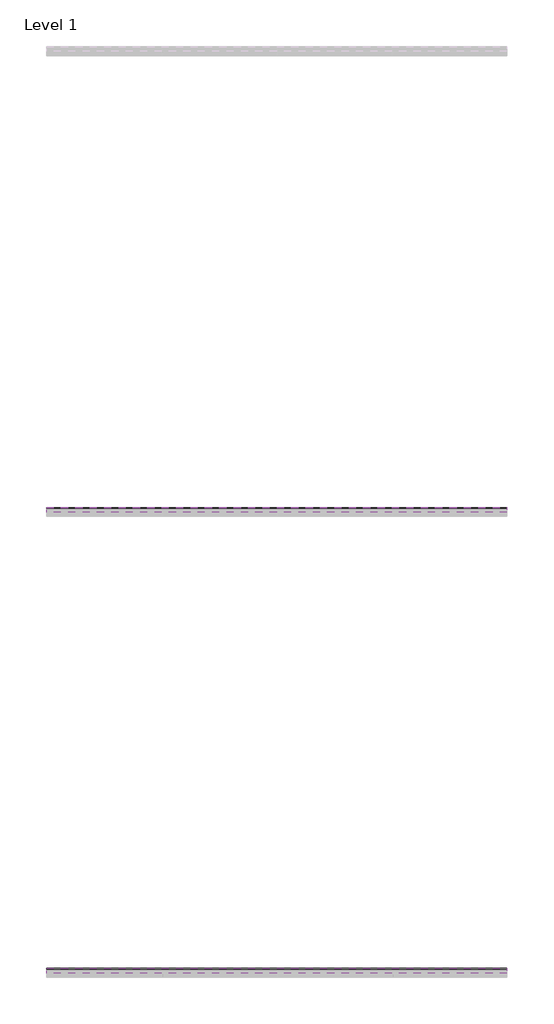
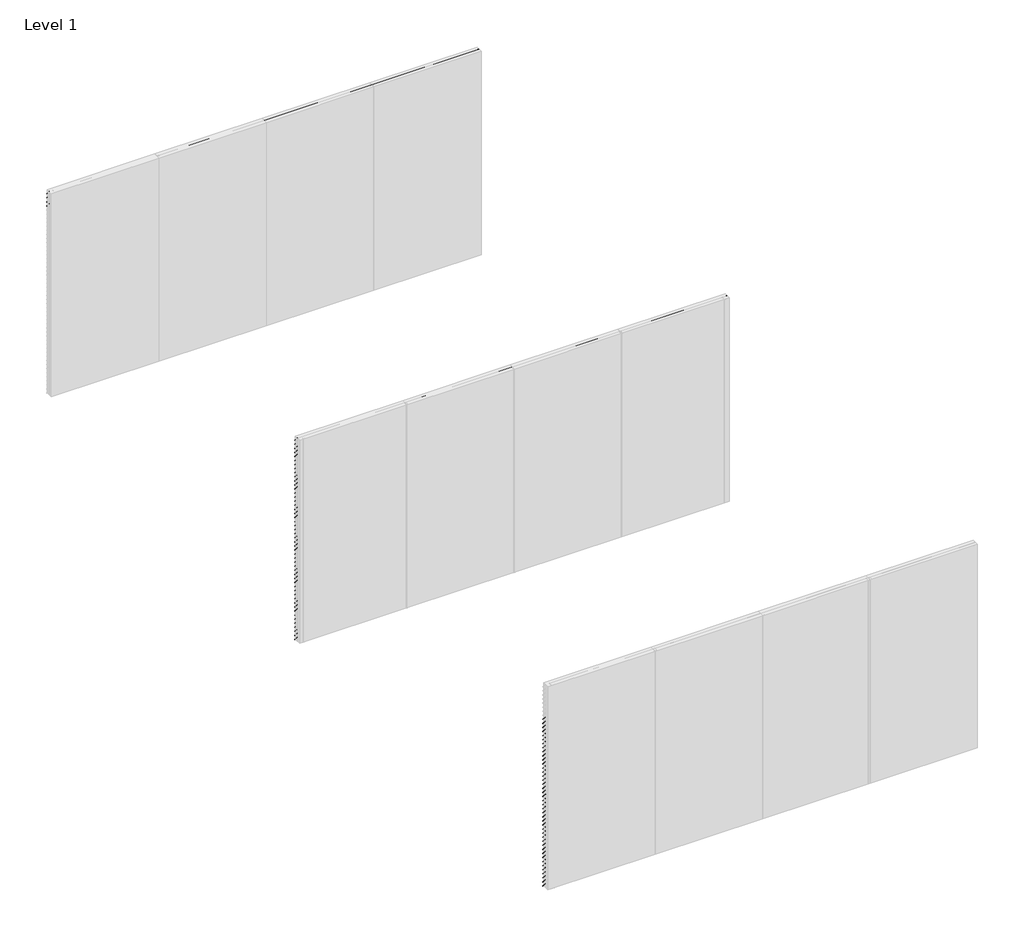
# One storey, part 2 of 3: 96 proxies.
"""IFC4 building model written with IfcOpenShell, lengths in millimetres."""

from ifc_helpers import new_model, si_unit, frame, origin, place, context, project, spatial, polyline, outline, extrude, element, save

model = new_model("IFC4")

# Units and contexts
model_context = context("Model", 3, world=origin())
ifc_project = project(units=[si_unit("LENGTHUNIT", "METRE", prefix="MILLI")], contexts=[model_context])

# Site, building, storey
site = spatial("IfcSite", under=ifc_project)
building = spatial("IfcBuilding", under=site)
storey = spatial("IfcBuildingStorey", under=building, Name="Level 1", Elevation=0.0)

# Proxies
placement = place(None, origin())
element("IfcBuildingElementProxy", 1, Name="Wall Sweeps", at=placement, inside=storey, context=model_context, shape_type="SweptSolid", body=[
    extrude(outline(polyline([(-7995.0, 3000.0), (-7995.0, 2998.0), (-7933.0, 2929.0), (-7933.0, 2926.0), (-7997.0, 2997.2258065), (-7997.0, 3000.0), (-7995.0, 3000.0)])), frame((0.0, 0.0, 0.0), z_axis=(1.0, 0.0, 0.0), x_axis=(0.0, 1.0, 0.0)), (0.0, 0.0, 1.0), 6000.0),
])
element("IfcBuildingElementProxy", 2, Name="Wall Sweeps", at=placement, inside=storey, context=model_context, shape_type="SweptSolid", body=[
    extrude(outline(polyline([(-7995.0, 2940.0), (-7995.0, 2938.0), (-7933.0, 2869.0), (-7933.0, 2866.0), (-7997.0, 2937.2258065), (-7997.0, 2940.0), (-7995.0, 2940.0)])), frame((0.0, 0.0, 0.0), z_axis=(1.0, 0.0, 0.0), x_axis=(0.0, 1.0, 0.0)), (0.0, 0.0, 1.0), 6000.0),
])
element("IfcBuildingElementProxy", 3, Name="Wall Sweeps", at=placement, inside=storey, context=model_context, shape_type="SweptSolid", body=[
    extrude(outline(polyline([(-7995.0, 2880.0), (-7995.0, 2878.0), (-7933.0, 2809.0), (-7933.0, 2806.0), (-7997.0, 2877.2258065), (-7997.0, 2880.0), (-7995.0, 2880.0)])), frame((0.0, 0.0, 0.0), z_axis=(1.0, 0.0, 0.0), x_axis=(0.0, 1.0, 0.0)), (0.0, 0.0, 1.0), 6000.0),
])
element("IfcBuildingElementProxy", 4, Name="Wall Sweeps", at=placement, inside=storey, context=model_context, shape_type="SweptSolid", body=[
    extrude(outline(polyline([(-7995.0, 2820.0), (-7995.0, 2818.0), (-7933.0, 2749.0), (-7933.0, 2746.0), (-7997.0, 2817.2258065), (-7997.0, 2820.0), (-7995.0, 2820.0)])), frame((0.0, 0.0, 0.0), z_axis=(1.0, 0.0, 0.0), x_axis=(0.0, 1.0, 0.0)), (0.0, 0.0, 1.0), 6000.0),
])
element("IfcBuildingElementProxy", 5, Name="Wall Sweeps", at=placement, inside=storey, context=model_context, shape_type="SweptSolid", body=[
    extrude(outline(polyline([(-13995.0, 3000.0), (-13995.0, 2998.0), (-13933.0, 2929.0), (-13933.0, 2926.0), (-13997.0, 2997.2258065), (-13997.0, 3000.0), (-13995.0, 3000.0)])), frame((0.0, 0.0, 0.0), z_axis=(1.0, 0.0, 0.0), x_axis=(0.0, 1.0, 0.0)), (0.0, 0.0, 1.0), 6000.0),
])
element("IfcBuildingElementProxy", 6, Name="Wall Sweeps", at=placement, inside=storey, context=model_context, shape_type="SweptSolid", body=[
    extrude(outline(polyline([(-13995.0, 2940.0), (-13995.0, 2938.0), (-13933.0, 2869.0), (-13933.0, 2866.0), (-13997.0, 2937.2258065), (-13997.0, 2940.0), (-13995.0, 2940.0)])), frame((0.0, 0.0, 0.0), z_axis=(1.0, 0.0, 0.0), x_axis=(0.0, 1.0, 0.0)), (0.0, 0.0, 1.0), 6000.0),
])
element("IfcBuildingElementProxy", 7, Name="Wall Sweeps", at=placement, inside=storey, context=model_context, shape_type="SweptSolid", body=[
    extrude(outline(polyline([(-13995.0, 2880.0), (-13995.0, 2878.0), (-13933.0, 2809.0), (-13933.0, 2806.0), (-13997.0, 2877.2258065), (-13997.0, 2880.0), (-13995.0, 2880.0)])), frame((0.0, 0.0, 0.0), z_axis=(1.0, 0.0, 0.0), x_axis=(0.0, 1.0, 0.0)), (0.0, 0.0, 1.0), 6000.0),
])
element("IfcBuildingElementProxy", 8, Name="Wall Sweeps", at=placement, inside=storey, context=model_context, shape_type="SweptSolid", body=[
    extrude(outline(polyline([(-13995.0, 2820.0), (-13995.0, 2818.0), (-13933.0, 2749.0), (-13933.0, 2746.0), (-13997.0, 2817.2258065), (-13997.0, 2820.0), (-13995.0, 2820.0)])), frame((0.0, 0.0, 0.0), z_axis=(1.0, 0.0, 0.0), x_axis=(0.0, 1.0, 0.0)), (0.0, 0.0, 1.0), 6000.0),
])
element("IfcBuildingElementProxy", 9, Name="Wall Sweeps", at=placement, inside=storey, context=model_context, shape_type="SweptSolid", body=[
    extrude(outline(polyline([(-13995.0, 2760.0), (-13995.0, 2758.0), (-13933.0, 2689.0), (-13933.0, 2686.0), (-13997.0, 2757.2258065), (-13997.0, 2760.0), (-13995.0, 2760.0)])), frame((0.0, 0.0, 0.0), z_axis=(1.0, 0.0, 0.0), x_axis=(0.0, 1.0, 0.0)), (0.0, 0.0, 1.0), 6000.0),
])
element("IfcBuildingElementProxy", 10, Name="Wall Sweeps", at=placement, inside=storey, context=model_context, shape_type="SweptSolid", body=[
    extrude(outline(polyline([(-13995.0, 2700.0), (-13995.0, 2698.0), (-13933.0, 2629.0), (-13933.0, 2626.0), (-13997.0, 2697.2258065), (-13997.0, 2700.0), (-13995.0, 2700.0)])), frame((0.0, 0.0, 0.0), z_axis=(1.0, 0.0, 0.0), x_axis=(0.0, 1.0, 0.0)), (0.0, 0.0, 1.0), 6000.0),
])
element("IfcBuildingElementProxy", 11, Name="Wall Sweeps", at=placement, inside=storey, context=model_context, shape_type="SweptSolid", body=[
    extrude(outline(polyline([(-13995.0, 2640.0), (-13995.0, 2638.0), (-13933.0, 2569.0), (-13933.0, 2566.0), (-13997.0, 2637.2258065), (-13997.0, 2640.0), (-13995.0, 2640.0)])), frame((0.0, 0.0, 0.0), z_axis=(1.0, 0.0, 0.0), x_axis=(0.0, 1.0, 0.0)), (0.0, 0.0, 1.0), 6000.0),
])
element("IfcBuildingElementProxy", 12, Name="Wall Sweeps", at=placement, inside=storey, context=model_context, shape_type="SweptSolid", body=[
    extrude(outline(polyline([(-13995.0, 2580.0), (-13995.0, 2578.0), (-13933.0, 2509.0), (-13933.0, 2506.0), (-13997.0, 2577.2258065), (-13997.0, 2580.0), (-13995.0, 2580.0)])), frame((0.0, 0.0, 0.0), z_axis=(1.0, 0.0, 0.0), x_axis=(0.0, 1.0, 0.0)), (0.0, 0.0, 1.0), 6000.0),
])
element("IfcBuildingElementProxy", 13, Name="Wall Sweeps", at=placement, inside=storey, context=model_context, shape_type="SweptSolid", body=[
    extrude(outline(polyline([(-13995.0, 2520.0), (-13995.0, 2518.0), (-13933.0, 2449.0), (-13933.0, 2446.0), (-13997.0, 2517.2258065), (-13997.0, 2520.0), (-13995.0, 2520.0)])), frame((0.0, 0.0, 0.0), z_axis=(1.0, 0.0, 0.0), x_axis=(0.0, 1.0, 0.0)), (0.0, 0.0, 1.0), 6000.0),
])
element("IfcBuildingElementProxy", 14, Name="Wall Sweeps", at=placement, inside=storey, context=model_context, shape_type="SweptSolid", body=[
    extrude(outline(polyline([(-13995.0, 2460.0), (-13995.0, 2458.0), (-13933.0, 2389.0), (-13933.0, 2386.0), (-13997.0, 2457.2258065), (-13997.0, 2460.0), (-13995.0, 2460.0)])), frame((0.0, 0.0, 0.0), z_axis=(1.0, 0.0, 0.0), x_axis=(0.0, 1.0, 0.0)), (0.0, 0.0, 1.0), 6000.0),
])
element("IfcBuildingElementProxy", 15, Name="Wall Sweeps", at=placement, inside=storey, context=model_context, shape_type="SweptSolid", body=[
    extrude(outline(polyline([(-13995.0, 2400.0), (-13995.0, 2398.0), (-13933.0, 2329.0), (-13933.0, 2326.0), (-13997.0, 2397.2258065), (-13997.0, 2400.0), (-13995.0, 2400.0)])), frame((0.0, 0.0, 0.0), z_axis=(1.0, 0.0, 0.0), x_axis=(0.0, 1.0, 0.0)), (0.0, 0.0, 1.0), 6000.0),
])
element("IfcBuildingElementProxy", 16, Name="Wall Sweeps", at=placement, inside=storey, context=model_context, shape_type="SweptSolid", body=[
    extrude(outline(polyline([(-13995.0, 2340.0), (-13995.0, 2338.0), (-13933.0, 2269.0), (-13933.0, 2266.0), (-13997.0, 2337.2258065), (-13997.0, 2340.0), (-13995.0, 2340.0)])), frame((0.0, 0.0, 0.0), z_axis=(1.0, 0.0, 0.0), x_axis=(0.0, 1.0, 0.0)), (0.0, 0.0, 1.0), 6000.0),
])
element("IfcBuildingElementProxy", 17, Name="Wall Sweeps", at=placement, inside=storey, context=model_context, shape_type="SweptSolid", body=[
    extrude(outline(polyline([(-13995.0, 2280.0), (-13995.0, 2278.0), (-13933.0, 2209.0), (-13933.0, 2206.0), (-13997.0, 2277.2258065), (-13997.0, 2280.0), (-13995.0, 2280.0)])), frame((0.0, 0.0, 0.0), z_axis=(1.0, 0.0, 0.0), x_axis=(0.0, 1.0, 0.0)), (0.0, 0.0, 1.0), 6000.0),
])
element("IfcBuildingElementProxy", 18, Name="Wall Sweeps", at=placement, inside=storey, context=model_context, shape_type="SweptSolid", body=[
    extrude(outline(polyline([(-13995.0, 2220.0), (-13995.0, 2218.0), (-13933.0, 2149.0), (-13933.0, 2146.0), (-13997.0, 2217.2258065), (-13997.0, 2220.0), (-13995.0, 2220.0)])), frame((0.0, 0.0, 0.0), z_axis=(1.0, 0.0, 0.0), x_axis=(0.0, 1.0, 0.0)), (0.0, 0.0, 1.0), 6000.0),
])
element("IfcBuildingElementProxy", 19, Name="Wall Sweeps", at=placement, inside=storey, context=model_context, shape_type="SweptSolid", body=[
    extrude(outline(polyline([(-13995.0, 2160.0), (-13995.0, 2158.0), (-13933.0, 2089.0), (-13933.0, 2086.0), (-13997.0, 2157.2258065), (-13997.0, 2160.0), (-13995.0, 2160.0)])), frame((0.0, 0.0, 0.0), z_axis=(1.0, 0.0, 0.0), x_axis=(0.0, 1.0, 0.0)), (0.0, 0.0, 1.0), 6000.0),
])
element("IfcBuildingElementProxy", 20, Name="Wall Sweeps", at=placement, inside=storey, context=model_context, shape_type="SweptSolid", body=[
    extrude(outline(polyline([(-13995.0, 2100.0), (-13995.0, 2098.0), (-13933.0, 2029.0), (-13933.0, 2026.0), (-13997.0, 2097.2258065), (-13997.0, 2100.0), (-13995.0, 2100.0)])), frame((0.0, 0.0, 0.0), z_axis=(1.0, 0.0, 0.0), x_axis=(0.0, 1.0, 0.0)), (0.0, 0.0, 1.0), 6000.0),
])
element("IfcBuildingElementProxy", 21, Name="Wall Sweeps", at=placement, inside=storey, context=model_context, shape_type="SweptSolid", body=[
    extrude(outline(polyline([(-13995.0, 2040.0), (-13995.0, 2038.0), (-13933.0, 1969.0), (-13933.0, 1966.0), (-13997.0, 2037.2258065), (-13997.0, 2040.0), (-13995.0, 2040.0)])), frame((0.0, 0.0, 0.0), z_axis=(1.0, 0.0, 0.0), x_axis=(0.0, 1.0, 0.0)), (0.0, 0.0, 1.0), 6000.0),
])
element("IfcBuildingElementProxy", 22, Name="Wall Sweeps", at=placement, inside=storey, context=model_context, shape_type="SweptSolid", body=[
    extrude(outline(polyline([(-13995.0, 1980.0), (-13995.0, 1978.0), (-13933.0, 1909.0), (-13933.0, 1906.0), (-13997.0, 1977.2258065), (-13997.0, 1980.0), (-13995.0, 1980.0)])), frame((0.0, 0.0, 0.0), z_axis=(1.0, 0.0, 0.0), x_axis=(0.0, 1.0, 0.0)), (0.0, 0.0, 1.0), 6000.0),
])
element("IfcBuildingElementProxy", 23, Name="Wall Sweeps", at=placement, inside=storey, context=model_context, shape_type="SweptSolid", body=[
    extrude(outline(polyline([(-13995.0, 1920.0), (-13995.0, 1918.0), (-13933.0, 1849.0), (-13933.0, 1846.0), (-13997.0, 1917.2258065), (-13997.0, 1920.0), (-13995.0, 1920.0)])), frame((0.0, 0.0, 0.0), z_axis=(1.0, 0.0, 0.0), x_axis=(0.0, 1.0, 0.0)), (0.0, 0.0, 1.0), 6000.0),
])
element("IfcBuildingElementProxy", 24, Name="Wall Sweeps", at=placement, inside=storey, context=model_context, shape_type="SweptSolid", body=[
    extrude(outline(polyline([(-13995.0, 1860.0), (-13995.0, 1858.0), (-13933.0, 1789.0), (-13933.0, 1786.0), (-13997.0, 1857.2258065), (-13997.0, 1860.0), (-13995.0, 1860.0)])), frame((0.0, 0.0, 0.0), z_axis=(1.0, 0.0, 0.0), x_axis=(0.0, 1.0, 0.0)), (0.0, 0.0, 1.0), 6000.0),
])
element("IfcBuildingElementProxy", 25, Name="Wall Sweeps", at=placement, inside=storey, context=model_context, shape_type="SweptSolid", body=[
    extrude(outline(polyline([(-13995.0, 1800.0), (-13995.0, 1798.0), (-13933.0, 1729.0), (-13933.0, 1726.0), (-13997.0, 1797.2258065), (-13997.0, 1800.0), (-13995.0, 1800.0)])), frame((0.0, 0.0, 0.0), z_axis=(1.0, 0.0, 0.0), x_axis=(0.0, 1.0, 0.0)), (0.0, 0.0, 1.0), 6000.0),
])
element("IfcBuildingElementProxy", 26, Name="Wall Sweeps", at=placement, inside=storey, context=model_context, shape_type="SweptSolid", body=[
    extrude(outline(polyline([(-13995.0, 1740.0), (-13995.0, 1738.0), (-13933.0, 1669.0), (-13933.0, 1666.0), (-13997.0, 1737.2258065), (-13997.0, 1740.0), (-13995.0, 1740.0)])), frame((0.0, 0.0, 0.0), z_axis=(1.0, 0.0, 0.0), x_axis=(0.0, 1.0, 0.0)), (0.0, 0.0, 1.0), 6000.0),
])
element("IfcBuildingElementProxy", 27, Name="Wall Sweeps", at=placement, inside=storey, context=model_context, shape_type="SweptSolid", body=[
    extrude(outline(polyline([(-13995.0, 1680.0), (-13995.0, 1678.0), (-13933.0, 1609.0), (-13933.0, 1606.0), (-13997.0, 1677.2258065), (-13997.0, 1680.0), (-13995.0, 1680.0)])), frame((0.0, 0.0, 0.0), z_axis=(1.0, 0.0, 0.0), x_axis=(0.0, 1.0, 0.0)), (0.0, 0.0, 1.0), 6000.0),
])
element("IfcBuildingElementProxy", 28, Name="Wall Sweeps", at=placement, inside=storey, context=model_context, shape_type="SweptSolid", body=[
    extrude(outline(polyline([(-13995.0, 1620.0), (-13995.0, 1618.0), (-13933.0, 1549.0), (-13933.0, 1546.0), (-13997.0, 1617.2258065), (-13997.0, 1620.0), (-13995.0, 1620.0)])), frame((0.0, 0.0, 0.0), z_axis=(1.0, 0.0, 0.0), x_axis=(0.0, 1.0, 0.0)), (0.0, 0.0, 1.0), 6000.0),
])
element("IfcBuildingElementProxy", 29, Name="Wall Sweeps", at=placement, inside=storey, context=model_context, shape_type="SweptSolid", body=[
    extrude(outline(polyline([(-13995.0, 1560.0), (-13995.0, 1558.0), (-13933.0, 1489.0), (-13933.0, 1486.0), (-13997.0, 1557.2258065), (-13997.0, 1560.0), (-13995.0, 1560.0)])), frame((0.0, 0.0, 0.0), z_axis=(1.0, 0.0, 0.0), x_axis=(0.0, 1.0, 0.0)), (0.0, 0.0, 1.0), 6000.0),
])
element("IfcBuildingElementProxy", 30, Name="Wall Sweeps", at=placement, inside=storey, context=model_context, shape_type="SweptSolid", body=[
    extrude(outline(polyline([(-13995.0, 1500.0), (-13995.0, 1498.0), (-13933.0, 1429.0), (-13933.0, 1426.0), (-13997.0, 1497.2258065), (-13997.0, 1500.0), (-13995.0, 1500.0)])), frame((0.0, 0.0, 0.0), z_axis=(1.0, 0.0, 0.0), x_axis=(0.0, 1.0, 0.0)), (0.0, 0.0, 1.0), 6000.0),
])
element("IfcBuildingElementProxy", 31, Name="Wall Sweeps", at=placement, inside=storey, context=model_context, shape_type="SweptSolid", body=[
    extrude(outline(polyline([(-13995.0, 1440.0), (-13995.0, 1438.0), (-13933.0, 1369.0), (-13933.0, 1366.0), (-13997.0, 1437.2258065), (-13997.0, 1440.0), (-13995.0, 1440.0)])), frame((0.0, 0.0, 0.0), z_axis=(1.0, 0.0, 0.0), x_axis=(0.0, 1.0, 0.0)), (0.0, 0.0, 1.0), 6000.0),
])
element("IfcBuildingElementProxy", 32, Name="Wall Sweeps", at=placement, inside=storey, context=model_context, shape_type="SweptSolid", body=[
    extrude(outline(polyline([(-13995.0, 1380.0), (-13995.0, 1378.0), (-13933.0, 1309.0), (-13933.0, 1306.0), (-13997.0, 1377.2258065), (-13997.0, 1380.0), (-13995.0, 1380.0)])), frame((0.0, 0.0, 0.0), z_axis=(1.0, 0.0, 0.0), x_axis=(0.0, 1.0, 0.0)), (0.0, 0.0, 1.0), 6000.0),
])
element("IfcBuildingElementProxy", 33, Name="Wall Sweeps", at=placement, inside=storey, context=model_context, shape_type="SweptSolid", body=[
    extrude(outline(polyline([(-13995.0, 1320.0), (-13995.0, 1318.0), (-13933.0, 1249.0), (-13933.0, 1246.0), (-13997.0, 1317.2258065), (-13997.0, 1320.0), (-13995.0, 1320.0)])), frame((0.0, 0.0, 0.0), z_axis=(1.0, 0.0, 0.0), x_axis=(0.0, 1.0, 0.0)), (0.0, 0.0, 1.0), 6000.0),
])
element("IfcBuildingElementProxy", 34, Name="Wall Sweeps", at=placement, inside=storey, context=model_context, shape_type="SweptSolid", body=[
    extrude(outline(polyline([(-13995.0, 1260.0), (-13995.0, 1258.0), (-13933.0, 1189.0), (-13933.0, 1186.0), (-13997.0, 1257.2258065), (-13997.0, 1260.0), (-13995.0, 1260.0)])), frame((0.0, 0.0, 0.0), z_axis=(1.0, 0.0, 0.0), x_axis=(0.0, 1.0, 0.0)), (0.0, 0.0, 1.0), 6000.0),
])
element("IfcBuildingElementProxy", 35, Name="Wall Sweeps", at=placement, inside=storey, context=model_context, shape_type="SweptSolid", body=[
    extrude(outline(polyline([(-13995.0, 1200.0), (-13995.0, 1198.0), (-13933.0, 1129.0), (-13933.0, 1126.0), (-13997.0, 1197.2258065), (-13997.0, 1200.0), (-13995.0, 1200.0)])), frame((0.0, 0.0, 0.0), z_axis=(1.0, 0.0, 0.0), x_axis=(0.0, 1.0, 0.0)), (0.0, 0.0, 1.0), 6000.0),
])
element("IfcBuildingElementProxy", 36, Name="Wall Sweeps", at=placement, inside=storey, context=model_context, shape_type="SweptSolid", body=[
    extrude(outline(polyline([(-13995.0, 1140.0), (-13995.0, 1138.0), (-13933.0, 1069.0), (-13933.0, 1066.0), (-13997.0, 1137.2258065), (-13997.0, 1140.0), (-13995.0, 1140.0)])), frame((0.0, 0.0, 0.0), z_axis=(1.0, 0.0, 0.0), x_axis=(0.0, 1.0, 0.0)), (0.0, 0.0, 1.0), 6000.0),
])
element("IfcBuildingElementProxy", 37, Name="Wall Sweeps", at=placement, inside=storey, context=model_context, shape_type="SweptSolid", body=[
    extrude(outline(polyline([(-13995.0, 1080.0), (-13995.0, 1078.0), (-13933.0, 1009.0), (-13933.0, 1006.0), (-13997.0, 1077.2258065), (-13997.0, 1080.0), (-13995.0, 1080.0)])), frame((0.0, 0.0, 0.0), z_axis=(1.0, 0.0, 0.0), x_axis=(0.0, 1.0, 0.0)), (0.0, 0.0, 1.0), 6000.0),
])
element("IfcBuildingElementProxy", 38, Name="Wall Sweeps", at=placement, inside=storey, context=model_context, shape_type="SweptSolid", body=[
    extrude(outline(polyline([(-13995.0, 1020.0), (-13995.0, 1018.0), (-13933.0, 949.0), (-13933.0, 946.0), (-13997.0, 1017.2258065), (-13997.0, 1020.0), (-13995.0, 1020.0)])), frame((0.0, 0.0, 0.0), z_axis=(1.0, 0.0, 0.0), x_axis=(0.0, 1.0, 0.0)), (0.0, 0.0, 1.0), 6000.0),
])
element("IfcBuildingElementProxy", 39, Name="Wall Sweeps", at=placement, inside=storey, context=model_context, shape_type="SweptSolid", body=[
    extrude(outline(polyline([(-13995.0, 960.0), (-13995.0, 958.0), (-13933.0, 889.0), (-13933.0, 886.0), (-13997.0, 957.2258065), (-13997.0, 960.0), (-13995.0, 960.0)])), frame((0.0, 0.0, 0.0), z_axis=(1.0, 0.0, 0.0), x_axis=(0.0, 1.0, 0.0)), (0.0, 0.0, 1.0), 6000.0),
])
element("IfcBuildingElementProxy", 40, Name="Wall Sweeps", at=placement, inside=storey, context=model_context, shape_type="SweptSolid", body=[
    extrude(outline(polyline([(-13995.0, 900.0), (-13995.0, 898.0), (-13933.0, 829.0), (-13933.0, 826.0), (-13997.0, 897.2258065), (-13997.0, 900.0), (-13995.0, 900.0)])), frame((0.0, 0.0, 0.0), z_axis=(1.0, 0.0, 0.0), x_axis=(0.0, 1.0, 0.0)), (0.0, 0.0, 1.0), 6000.0),
])
element("IfcBuildingElementProxy", 41, Name="Wall Sweeps", at=placement, inside=storey, context=model_context, shape_type="SweptSolid", body=[
    extrude(outline(polyline([(-13995.0, 840.0), (-13995.0, 838.0), (-13933.0, 769.0), (-13933.0, 766.0), (-13997.0, 837.2258065), (-13997.0, 840.0), (-13995.0, 840.0)])), frame((0.0, 0.0, 0.0), z_axis=(1.0, 0.0, 0.0), x_axis=(0.0, 1.0, 0.0)), (0.0, 0.0, 1.0), 6000.0),
])
element("IfcBuildingElementProxy", 42, Name="Wall Sweeps", at=placement, inside=storey, context=model_context, shape_type="SweptSolid", body=[
    extrude(outline(polyline([(-13995.0, 780.0), (-13995.0, 778.0), (-13933.0, 709.0), (-13933.0, 706.0), (-13997.0, 777.2258065), (-13997.0, 780.0), (-13995.0, 780.0)])), frame((0.0, 0.0, 0.0), z_axis=(1.0, 0.0, 0.0), x_axis=(0.0, 1.0, 0.0)), (0.0, 0.0, 1.0), 6000.0),
])
element("IfcBuildingElementProxy", 43, Name="Wall Sweeps", at=placement, inside=storey, context=model_context, shape_type="SweptSolid", body=[
    extrude(outline(polyline([(-13995.0, 720.0), (-13995.0, 718.0), (-13933.0, 649.0), (-13933.0, 646.0), (-13997.0, 717.2258065), (-13997.0, 720.0), (-13995.0, 720.0)])), frame((0.0, 0.0, 0.0), z_axis=(1.0, 0.0, 0.0), x_axis=(0.0, 1.0, 0.0)), (0.0, 0.0, 1.0), 6000.0),
])
element("IfcBuildingElementProxy", 44, Name="Wall Sweeps", at=placement, inside=storey, context=model_context, shape_type="SweptSolid", body=[
    extrude(outline(polyline([(-13995.0, 660.0), (-13995.0, 658.0), (-13933.0, 589.0), (-13933.0, 586.0), (-13997.0, 657.2258065), (-13997.0, 660.0), (-13995.0, 660.0)])), frame((0.0, 0.0, 0.0), z_axis=(1.0, 0.0, 0.0), x_axis=(0.0, 1.0, 0.0)), (0.0, 0.0, 1.0), 6000.0),
])
element("IfcBuildingElementProxy", 45, Name="Wall Sweeps", at=placement, inside=storey, context=model_context, shape_type="SweptSolid", body=[
    extrude(outline(polyline([(-13995.0, 600.0), (-13995.0, 598.0), (-13933.0, 529.0), (-13933.0, 526.0), (-13997.0, 597.2258065), (-13997.0, 600.0), (-13995.0, 600.0)])), frame((0.0, 0.0, 0.0), z_axis=(1.0, 0.0, 0.0), x_axis=(0.0, 1.0, 0.0)), (0.0, 0.0, 1.0), 6000.0),
])
element("IfcBuildingElementProxy", 46, Name="Wall Sweeps", at=placement, inside=storey, context=model_context, shape_type="SweptSolid", body=[
    extrude(outline(polyline([(-13995.0, 540.0), (-13995.0, 538.0), (-13933.0, 469.0), (-13933.0, 466.0), (-13997.0, 537.2258065), (-13997.0, 540.0), (-13995.0, 540.0)])), frame((0.0, 0.0, 0.0), z_axis=(1.0, 0.0, 0.0), x_axis=(0.0, 1.0, 0.0)), (0.0, 0.0, 1.0), 6000.0),
])
element("IfcBuildingElementProxy", 47, Name="Wall Sweeps", at=placement, inside=storey, context=model_context, shape_type="SweptSolid", body=[
    extrude(outline(polyline([(-13995.0, 480.0), (-13995.0, 478.0), (-13933.0, 409.0), (-13933.0, 406.0), (-13997.0, 477.2258065), (-13997.0, 480.0), (-13995.0, 480.0)])), frame((0.0, 0.0, 0.0), z_axis=(1.0, 0.0, 0.0), x_axis=(0.0, 1.0, 0.0)), (0.0, 0.0, 1.0), 6000.0),
])
element("IfcBuildingElementProxy", 48, Name="Wall Sweeps", at=placement, inside=storey, context=model_context, shape_type="SweptSolid", body=[
    extrude(outline(polyline([(-13995.0, 420.0), (-13995.0, 418.0), (-13933.0, 349.0), (-13933.0, 346.0), (-13997.0, 417.2258065), (-13997.0, 420.0), (-13995.0, 420.0)])), frame((0.0, 0.0, 0.0), z_axis=(1.0, 0.0, 0.0), x_axis=(0.0, 1.0, 0.0)), (0.0, 0.0, 1.0), 6000.0),
])
element("IfcBuildingElementProxy", 49, Name="Wall Sweeps", at=placement, inside=storey, context=model_context, shape_type="SweptSolid", body=[
    extrude(outline(polyline([(-13995.0, 360.0), (-13995.0, 358.0), (-13933.0, 289.0), (-13933.0, 286.0), (-13997.0, 357.2258065), (-13997.0, 360.0), (-13995.0, 360.0)])), frame((0.0, 0.0, 0.0), z_axis=(1.0, 0.0, 0.0), x_axis=(0.0, 1.0, 0.0)), (0.0, 0.0, 1.0), 6000.0),
])
element("IfcBuildingElementProxy", 50, Name="Wall Sweeps", at=placement, inside=storey, context=model_context, shape_type="SweptSolid", body=[
    extrude(outline(polyline([(-13995.0, 300.0), (-13995.0, 298.0), (-13933.0, 229.0), (-13933.0, 226.0), (-13997.0, 297.2258065), (-13997.0, 300.0), (-13995.0, 300.0)])), frame((0.0, 0.0, 0.0), z_axis=(1.0, 0.0, 0.0), x_axis=(0.0, 1.0, 0.0)), (0.0, 0.0, 1.0), 6000.0),
])
element("IfcBuildingElementProxy", 51, Name="Wall Sweeps", at=placement, inside=storey, context=model_context, shape_type="SweptSolid", body=[
    extrude(outline(polyline([(-13995.0, 240.0), (-13995.0, 238.0), (-13933.0, 169.0), (-13933.0, 166.0), (-13997.0, 237.2258065), (-13997.0, 240.0), (-13995.0, 240.0)])), frame((0.0, 0.0, 0.0), z_axis=(1.0, 0.0, 0.0), x_axis=(0.0, 1.0, 0.0)), (0.0, 0.0, 1.0), 6000.0),
])
element("IfcBuildingElementProxy", 52, Name="Wall Sweeps", at=placement, inside=storey, context=model_context, shape_type="SweptSolid", body=[
    extrude(outline(polyline([(-13995.0, 180.0), (-13995.0, 178.0), (-13933.0, 109.0), (-13933.0, 106.0), (-13997.0, 177.2258065), (-13997.0, 180.0), (-13995.0, 180.0)])), frame((0.0, 0.0, 0.0), z_axis=(1.0, 0.0, 0.0), x_axis=(0.0, 1.0, 0.0)), (0.0, 0.0, 1.0), 6000.0),
])
element("IfcBuildingElementProxy", 53, Name="Wall Sweeps", at=placement, inside=storey, context=model_context, shape_type="SweptSolid", body=[
    extrude(outline(polyline([(-13995.0, 120.0), (-13995.0, 118.0), (-13933.0, 49.0), (-13933.0, 46.0), (-13997.0, 117.2258065), (-13997.0, 120.0), (-13995.0, 120.0)])), frame((0.0, 0.0, 0.0), z_axis=(1.0, 0.0, 0.0), x_axis=(0.0, 1.0, 0.0)), (0.0, 0.0, 1.0), 6000.0),
])
element("IfcBuildingElementProxy", 54, Name="Wall Sweeps", at=placement, inside=storey, context=model_context, shape_type="SweptSolid", body=[
    extrude(outline(polyline([(-13995.0, 60.0), (-13995.0, 58.0), (-13933.0, -11.0), (-13933.0, -14.0), (-13997.0, 57.2258065), (-13997.0, 60.0), (-13995.0, 60.0)])), frame((0.0, 0.0, 0.0), z_axis=(1.0, 0.0, 0.0), x_axis=(0.0, 1.0, 0.0)), (0.0, 0.0, 1.0), 6000.0),
])
element("IfcBuildingElementProxy", 55, Name="Wall Sweeps", at=placement, inside=storey, context=model_context, shape_type="SweptSolid", body=[
    extrude(outline(polyline([(-19995.0, 2520.0), (-19995.0, 2518.0), (-19933.0, 2449.0), (-19933.0, 2446.0), (-19997.0, 2517.2258065), (-19997.0, 2520.0), (-19995.0, 2520.0)])), frame((0.0, 0.0, 0.0), z_axis=(1.0, 0.0, 0.0), x_axis=(0.0, 1.0, 0.0)), (0.0, 0.0, 1.0), 6000.0),
])
element("IfcBuildingElementProxy", 56, Name="Wall Sweeps", at=placement, inside=storey, context=model_context, shape_type="SweptSolid", body=[
    extrude(outline(polyline([(-19995.0, 2460.0), (-19995.0, 2458.0), (-19933.0, 2389.0), (-19933.0, 2386.0), (-19997.0, 2457.2258065), (-19997.0, 2460.0), (-19995.0, 2460.0)])), frame((0.0, 0.0, 0.0), z_axis=(1.0, 0.0, 0.0), x_axis=(0.0, 1.0, 0.0)), (0.0, 0.0, 1.0), 6000.0),
])
element("IfcBuildingElementProxy", 57, Name="Wall Sweeps", at=placement, inside=storey, context=model_context, shape_type="SweptSolid", body=[
    extrude(outline(polyline([(-19995.0, 2400.0), (-19995.0, 2398.0), (-19933.0, 2329.0), (-19933.0, 2326.0), (-19997.0, 2397.2258065), (-19997.0, 2400.0), (-19995.0, 2400.0)])), frame((0.0, 0.0, 0.0), z_axis=(1.0, 0.0, 0.0), x_axis=(0.0, 1.0, 0.0)), (0.0, 0.0, 1.0), 6000.0),
])
element("IfcBuildingElementProxy", 58, Name="Wall Sweeps", at=placement, inside=storey, context=model_context, shape_type="SweptSolid", body=[
    extrude(outline(polyline([(-19995.0, 2340.0), (-19995.0, 2338.0), (-19933.0, 2269.0), (-19933.0, 2266.0), (-19997.0, 2337.2258065), (-19997.0, 2340.0), (-19995.0, 2340.0)])), frame((0.0, 0.0, 0.0), z_axis=(1.0, 0.0, 0.0), x_axis=(0.0, 1.0, 0.0)), (0.0, 0.0, 1.0), 6000.0),
])
element("IfcBuildingElementProxy", 59, Name="Wall Sweeps", at=placement, inside=storey, context=model_context, shape_type="SweptSolid", body=[
    extrude(outline(polyline([(-19995.0, 2280.0), (-19995.0, 2278.0), (-19933.0, 2209.0), (-19933.0, 2206.0), (-19997.0, 2277.2258065), (-19997.0, 2280.0), (-19995.0, 2280.0)])), frame((0.0, 0.0, 0.0), z_axis=(1.0, 0.0, 0.0), x_axis=(0.0, 1.0, 0.0)), (0.0, 0.0, 1.0), 6000.0),
])
element("IfcBuildingElementProxy", 60, Name="Wall Sweeps", at=placement, inside=storey, context=model_context, shape_type="SweptSolid", body=[
    extrude(outline(polyline([(-19995.0, 2220.0), (-19995.0, 2218.0), (-19933.0, 2149.0), (-19933.0, 2146.0), (-19997.0, 2217.2258065), (-19997.0, 2220.0), (-19995.0, 2220.0)])), frame((0.0, 0.0, 0.0), z_axis=(1.0, 0.0, 0.0), x_axis=(0.0, 1.0, 0.0)), (0.0, 0.0, 1.0), 6000.0),
])
element("IfcBuildingElementProxy", 61, Name="Wall Sweeps", at=placement, inside=storey, context=model_context, shape_type="SweptSolid", body=[
    extrude(outline(polyline([(-19995.0, 2160.0), (-19995.0, 2158.0), (-19933.0, 2089.0), (-19933.0, 2086.0), (-19997.0, 2157.2258065), (-19997.0, 2160.0), (-19995.0, 2160.0)])), frame((0.0, 0.0, 0.0), z_axis=(1.0, 0.0, 0.0), x_axis=(0.0, 1.0, 0.0)), (0.0, 0.0, 1.0), 6000.0),
])
element("IfcBuildingElementProxy", 62, Name="Wall Sweeps", at=placement, inside=storey, context=model_context, shape_type="SweptSolid", body=[
    extrude(outline(polyline([(-19995.0, 2100.0), (-19995.0, 2098.0), (-19933.0, 2029.0), (-19933.0, 2026.0), (-19997.0, 2097.2258065), (-19997.0, 2100.0), (-19995.0, 2100.0)])), frame((0.0, 0.0, 0.0), z_axis=(1.0, 0.0, 0.0), x_axis=(0.0, 1.0, 0.0)), (0.0, 0.0, 1.0), 6000.0),
])
element("IfcBuildingElementProxy", 63, Name="Wall Sweeps", at=placement, inside=storey, context=model_context, shape_type="SweptSolid", body=[
    extrude(outline(polyline([(-19995.0, 2040.0), (-19995.0, 2038.0), (-19933.0, 1969.0), (-19933.0, 1966.0), (-19997.0, 2037.2258065), (-19997.0, 2040.0), (-19995.0, 2040.0)])), frame((0.0, 0.0, 0.0), z_axis=(1.0, 0.0, 0.0), x_axis=(0.0, 1.0, 0.0)), (0.0, 0.0, 1.0), 6000.0),
])
element("IfcBuildingElementProxy", 64, Name="Wall Sweeps", at=placement, inside=storey, context=model_context, shape_type="SweptSolid", body=[
    extrude(outline(polyline([(-19995.0, 1980.0), (-19995.0, 1978.0), (-19933.0, 1909.0), (-19933.0, 1906.0), (-19997.0, 1977.2258065), (-19997.0, 1980.0), (-19995.0, 1980.0)])), frame((0.0, 0.0, 0.0), z_axis=(1.0, 0.0, 0.0), x_axis=(0.0, 1.0, 0.0)), (0.0, 0.0, 1.0), 6000.0),
])
element("IfcBuildingElementProxy", 65, Name="Wall Sweeps", at=placement, inside=storey, context=model_context, shape_type="SweptSolid", body=[
    extrude(outline(polyline([(-19995.0, 1920.0), (-19995.0, 1918.0), (-19933.0, 1849.0), (-19933.0, 1846.0), (-19997.0, 1917.2258065), (-19997.0, 1920.0), (-19995.0, 1920.0)])), frame((0.0, 0.0, 0.0), z_axis=(1.0, 0.0, 0.0), x_axis=(0.0, 1.0, 0.0)), (0.0, 0.0, 1.0), 6000.0),
])
element("IfcBuildingElementProxy", 66, Name="Wall Sweeps", at=placement, inside=storey, context=model_context, shape_type="SweptSolid", body=[
    extrude(outline(polyline([(-19995.0, 1860.0), (-19995.0, 1858.0), (-19933.0, 1789.0), (-19933.0, 1786.0), (-19997.0, 1857.2258065), (-19997.0, 1860.0), (-19995.0, 1860.0)])), frame((0.0, 0.0, 0.0), z_axis=(1.0, 0.0, 0.0), x_axis=(0.0, 1.0, 0.0)), (0.0, 0.0, 1.0), 6000.0),
])
element("IfcBuildingElementProxy", 67, Name="Wall Sweeps", at=placement, inside=storey, context=model_context, shape_type="SweptSolid", body=[
    extrude(outline(polyline([(-19995.0, 1800.0), (-19995.0, 1798.0), (-19933.0, 1729.0), (-19933.0, 1726.0), (-19997.0, 1797.2258065), (-19997.0, 1800.0), (-19995.0, 1800.0)])), frame((0.0, 0.0, 0.0), z_axis=(1.0, 0.0, 0.0), x_axis=(0.0, 1.0, 0.0)), (0.0, 0.0, 1.0), 6000.0),
])
element("IfcBuildingElementProxy", 68, Name="Wall Sweeps", at=placement, inside=storey, context=model_context, shape_type="SweptSolid", body=[
    extrude(outline(polyline([(-19995.0, 1740.0), (-19995.0, 1738.0), (-19933.0, 1669.0), (-19933.0, 1666.0), (-19997.0, 1737.2258065), (-19997.0, 1740.0), (-19995.0, 1740.0)])), frame((0.0, 0.0, 0.0), z_axis=(1.0, 0.0, 0.0), x_axis=(0.0, 1.0, 0.0)), (0.0, 0.0, 1.0), 6000.0),
])
element("IfcBuildingElementProxy", 69, Name="Wall Sweeps", at=placement, inside=storey, context=model_context, shape_type="SweptSolid", body=[
    extrude(outline(polyline([(-19995.0, 1680.0), (-19995.0, 1678.0), (-19933.0, 1609.0), (-19933.0, 1606.0), (-19997.0, 1677.2258065), (-19997.0, 1680.0), (-19995.0, 1680.0)])), frame((0.0, 0.0, 0.0), z_axis=(1.0, 0.0, 0.0), x_axis=(0.0, 1.0, 0.0)), (0.0, 0.0, 1.0), 6000.0),
])
element("IfcBuildingElementProxy", 70, Name="Wall Sweeps", at=placement, inside=storey, context=model_context, shape_type="SweptSolid", body=[
    extrude(outline(polyline([(-19995.0, 1620.0), (-19995.0, 1618.0), (-19933.0, 1549.0), (-19933.0, 1546.0), (-19997.0, 1617.2258065), (-19997.0, 1620.0), (-19995.0, 1620.0)])), frame((0.0, 0.0, 0.0), z_axis=(1.0, 0.0, 0.0), x_axis=(0.0, 1.0, 0.0)), (0.0, 0.0, 1.0), 6000.0),
])
element("IfcBuildingElementProxy", 71, Name="Wall Sweeps", at=placement, inside=storey, context=model_context, shape_type="SweptSolid", body=[
    extrude(outline(polyline([(-19995.0, 1560.0), (-19995.0, 1558.0), (-19933.0, 1489.0), (-19933.0, 1486.0), (-19997.0, 1557.2258065), (-19997.0, 1560.0), (-19995.0, 1560.0)])), frame((0.0, 0.0, 0.0), z_axis=(1.0, 0.0, 0.0), x_axis=(0.0, 1.0, 0.0)), (0.0, 0.0, 1.0), 6000.0),
])
element("IfcBuildingElementProxy", 72, Name="Wall Sweeps", at=placement, inside=storey, context=model_context, shape_type="SweptSolid", body=[
    extrude(outline(polyline([(-19995.0, 1500.0), (-19995.0, 1498.0), (-19933.0, 1429.0), (-19933.0, 1426.0), (-19997.0, 1497.2258065), (-19997.0, 1500.0), (-19995.0, 1500.0)])), frame((0.0, 0.0, 0.0), z_axis=(1.0, 0.0, 0.0), x_axis=(0.0, 1.0, 0.0)), (0.0, 0.0, 1.0), 6000.0),
])
element("IfcBuildingElementProxy", 73, Name="Wall Sweeps", at=placement, inside=storey, context=model_context, shape_type="SweptSolid", body=[
    extrude(outline(polyline([(-19995.0, 1440.0), (-19995.0, 1438.0), (-19933.0, 1369.0), (-19933.0, 1366.0), (-19997.0, 1437.2258065), (-19997.0, 1440.0), (-19995.0, 1440.0)])), frame((0.0, 0.0, 0.0), z_axis=(1.0, 0.0, 0.0), x_axis=(0.0, 1.0, 0.0)), (0.0, 0.0, 1.0), 6000.0),
])
element("IfcBuildingElementProxy", 74, Name="Wall Sweeps", at=placement, inside=storey, context=model_context, shape_type="SweptSolid", body=[
    extrude(outline(polyline([(-19995.0, 1380.0), (-19995.0, 1378.0), (-19933.0, 1309.0), (-19933.0, 1306.0), (-19997.0, 1377.2258065), (-19997.0, 1380.0), (-19995.0, 1380.0)])), frame((0.0, 0.0, 0.0), z_axis=(1.0, 0.0, 0.0), x_axis=(0.0, 1.0, 0.0)), (0.0, 0.0, 1.0), 6000.0),
])
element("IfcBuildingElementProxy", 75, Name="Wall Sweeps", at=placement, inside=storey, context=model_context, shape_type="SweptSolid", body=[
    extrude(outline(polyline([(-19995.0, 1320.0), (-19995.0, 1318.0), (-19933.0, 1249.0), (-19933.0, 1246.0), (-19997.0, 1317.2258065), (-19997.0, 1320.0), (-19995.0, 1320.0)])), frame((0.0, 0.0, 0.0), z_axis=(1.0, 0.0, 0.0), x_axis=(0.0, 1.0, 0.0)), (0.0, 0.0, 1.0), 6000.0),
])
element("IfcBuildingElementProxy", 76, Name="Wall Sweeps", at=placement, inside=storey, context=model_context, shape_type="SweptSolid", body=[
    extrude(outline(polyline([(-19995.0, 1260.0), (-19995.0, 1258.0), (-19933.0, 1189.0), (-19933.0, 1186.0), (-19997.0, 1257.2258065), (-19997.0, 1260.0), (-19995.0, 1260.0)])), frame((0.0, 0.0, 0.0), z_axis=(1.0, 0.0, 0.0), x_axis=(0.0, 1.0, 0.0)), (0.0, 0.0, 1.0), 6000.0),
])
element("IfcBuildingElementProxy", 77, Name="Wall Sweeps", at=placement, inside=storey, context=model_context, shape_type="SweptSolid", body=[
    extrude(outline(polyline([(-19995.0, 1200.0), (-19995.0, 1198.0), (-19933.0, 1129.0), (-19933.0, 1126.0), (-19997.0, 1197.2258065), (-19997.0, 1200.0), (-19995.0, 1200.0)])), frame((0.0, 0.0, 0.0), z_axis=(1.0, 0.0, 0.0), x_axis=(0.0, 1.0, 0.0)), (0.0, 0.0, 1.0), 6000.0),
])
element("IfcBuildingElementProxy", 78, Name="Wall Sweeps", at=placement, inside=storey, context=model_context, shape_type="SweptSolid", body=[
    extrude(outline(polyline([(-19995.0, 1140.0), (-19995.0, 1138.0), (-19933.0, 1069.0), (-19933.0, 1066.0), (-19997.0, 1137.2258065), (-19997.0, 1140.0), (-19995.0, 1140.0)])), frame((0.0, 0.0, 0.0), z_axis=(1.0, 0.0, 0.0), x_axis=(0.0, 1.0, 0.0)), (0.0, 0.0, 1.0), 6000.0),
])
element("IfcBuildingElementProxy", 79, Name="Wall Sweeps", at=placement, inside=storey, context=model_context, shape_type="SweptSolid", body=[
    extrude(outline(polyline([(-19995.0, 1080.0), (-19995.0, 1078.0), (-19933.0, 1009.0), (-19933.0, 1006.0), (-19997.0, 1077.2258065), (-19997.0, 1080.0), (-19995.0, 1080.0)])), frame((0.0, 0.0, 0.0), z_axis=(1.0, 0.0, 0.0), x_axis=(0.0, 1.0, 0.0)), (0.0, 0.0, 1.0), 6000.0),
])
element("IfcBuildingElementProxy", 80, Name="Wall Sweeps", at=placement, inside=storey, context=model_context, shape_type="SweptSolid", body=[
    extrude(outline(polyline([(-19995.0, 1020.0), (-19995.0, 1018.0), (-19933.0, 949.0), (-19933.0, 946.0), (-19997.0, 1017.2258065), (-19997.0, 1020.0), (-19995.0, 1020.0)])), frame((0.0, 0.0, 0.0), z_axis=(1.0, 0.0, 0.0), x_axis=(0.0, 1.0, 0.0)), (0.0, 0.0, 1.0), 6000.0),
])
element("IfcBuildingElementProxy", 81, Name="Wall Sweeps", at=placement, inside=storey, context=model_context, shape_type="SweptSolid", body=[
    extrude(outline(polyline([(-19995.0, 960.0), (-19995.0, 958.0), (-19933.0, 889.0), (-19933.0, 886.0), (-19997.0, 957.2258065), (-19997.0, 960.0), (-19995.0, 960.0)])), frame((0.0, 0.0, 0.0), z_axis=(1.0, 0.0, 0.0), x_axis=(0.0, 1.0, 0.0)), (0.0, 0.0, 1.0), 6000.0),
])
element("IfcBuildingElementProxy", 82, Name="Wall Sweeps", at=placement, inside=storey, context=model_context, shape_type="SweptSolid", body=[
    extrude(outline(polyline([(-19995.0, 900.0), (-19995.0, 898.0), (-19933.0, 829.0), (-19933.0, 826.0), (-19997.0, 897.2258065), (-19997.0, 900.0), (-19995.0, 900.0)])), frame((0.0, 0.0, 0.0), z_axis=(1.0, 0.0, 0.0), x_axis=(0.0, 1.0, 0.0)), (0.0, 0.0, 1.0), 6000.0),
])
element("IfcBuildingElementProxy", 83, Name="Wall Sweeps", at=placement, inside=storey, context=model_context, shape_type="SweptSolid", body=[
    extrude(outline(polyline([(-19995.0, 840.0), (-19995.0, 838.0), (-19933.0, 769.0), (-19933.0, 766.0), (-19997.0, 837.2258065), (-19997.0, 840.0), (-19995.0, 840.0)])), frame((0.0, 0.0, 0.0), z_axis=(1.0, 0.0, 0.0), x_axis=(0.0, 1.0, 0.0)), (0.0, 0.0, 1.0), 6000.0),
])
element("IfcBuildingElementProxy", 84, Name="Wall Sweeps", at=placement, inside=storey, context=model_context, shape_type="SweptSolid", body=[
    extrude(outline(polyline([(-19995.0, 780.0), (-19995.0, 778.0), (-19933.0, 709.0), (-19933.0, 706.0), (-19997.0, 777.2258065), (-19997.0, 780.0), (-19995.0, 780.0)])), frame((0.0, 0.0, 0.0), z_axis=(1.0, 0.0, 0.0), x_axis=(0.0, 1.0, 0.0)), (0.0, 0.0, 1.0), 6000.0),
])
element("IfcBuildingElementProxy", 85, Name="Wall Sweeps", at=placement, inside=storey, context=model_context, shape_type="SweptSolid", body=[
    extrude(outline(polyline([(-19995.0, 720.0), (-19995.0, 718.0), (-19933.0, 649.0), (-19933.0, 646.0), (-19997.0, 717.2258065), (-19997.0, 720.0), (-19995.0, 720.0)])), frame((0.0, 0.0, 0.0), z_axis=(1.0, 0.0, 0.0), x_axis=(0.0, 1.0, 0.0)), (0.0, 0.0, 1.0), 6000.0),
])
element("IfcBuildingElementProxy", 86, Name="Wall Sweeps", at=placement, inside=storey, context=model_context, shape_type="SweptSolid", body=[
    extrude(outline(polyline([(-19995.0, 660.0), (-19995.0, 658.0), (-19933.0, 589.0), (-19933.0, 586.0), (-19997.0, 657.2258065), (-19997.0, 660.0), (-19995.0, 660.0)])), frame((0.0, 0.0, 0.0), z_axis=(1.0, 0.0, 0.0), x_axis=(0.0, 1.0, 0.0)), (0.0, 0.0, 1.0), 6000.0),
])
element("IfcBuildingElementProxy", 87, Name="Wall Sweeps", at=placement, inside=storey, context=model_context, shape_type="SweptSolid", body=[
    extrude(outline(polyline([(-19995.0, 600.0), (-19995.0, 598.0), (-19933.0, 529.0), (-19933.0, 526.0), (-19997.0, 597.2258065), (-19997.0, 600.0), (-19995.0, 600.0)])), frame((0.0, 0.0, 0.0), z_axis=(1.0, 0.0, 0.0), x_axis=(0.0, 1.0, 0.0)), (0.0, 0.0, 1.0), 6000.0),
])
element("IfcBuildingElementProxy", 88, Name="Wall Sweeps", at=placement, inside=storey, context=model_context, shape_type="SweptSolid", body=[
    extrude(outline(polyline([(-19995.0, 540.0), (-19995.0, 538.0), (-19933.0, 469.0), (-19933.0, 466.0), (-19997.0, 537.2258065), (-19997.0, 540.0), (-19995.0, 540.0)])), frame((0.0, 0.0, 0.0), z_axis=(1.0, 0.0, 0.0), x_axis=(0.0, 1.0, 0.0)), (0.0, 0.0, 1.0), 6000.0),
])
element("IfcBuildingElementProxy", 89, Name="Wall Sweeps", at=placement, inside=storey, context=model_context, shape_type="SweptSolid", body=[
    extrude(outline(polyline([(-19995.0, 480.0), (-19995.0, 478.0), (-19933.0, 409.0), (-19933.0, 406.0), (-19997.0, 477.2258065), (-19997.0, 480.0), (-19995.0, 480.0)])), frame((0.0, 0.0, 0.0), z_axis=(1.0, 0.0, 0.0), x_axis=(0.0, 1.0, 0.0)), (0.0, 0.0, 1.0), 6000.0),
])
element("IfcBuildingElementProxy", 90, Name="Wall Sweeps", at=placement, inside=storey, context=model_context, shape_type="SweptSolid", body=[
    extrude(outline(polyline([(-19995.0, 420.0), (-19995.0, 418.0), (-19933.0, 349.0), (-19933.0, 346.0), (-19997.0, 417.2258065), (-19997.0, 420.0), (-19995.0, 420.0)])), frame((0.0, 0.0, 0.0), z_axis=(1.0, 0.0, 0.0), x_axis=(0.0, 1.0, 0.0)), (0.0, 0.0, 1.0), 6000.0),
])
element("IfcBuildingElementProxy", 91, Name="Wall Sweeps", at=placement, inside=storey, context=model_context, shape_type="SweptSolid", body=[
    extrude(outline(polyline([(-19995.0, 360.0), (-19995.0, 358.0), (-19933.0, 289.0), (-19933.0, 286.0), (-19997.0, 357.2258065), (-19997.0, 360.0), (-19995.0, 360.0)])), frame((0.0, 0.0, 0.0), z_axis=(1.0, 0.0, 0.0), x_axis=(0.0, 1.0, 0.0)), (0.0, 0.0, 1.0), 6000.0),
])
element("IfcBuildingElementProxy", 92, Name="Wall Sweeps", at=placement, inside=storey, context=model_context, shape_type="SweptSolid", body=[
    extrude(outline(polyline([(-19995.0, 300.0), (-19995.0, 298.0), (-19933.0, 229.0), (-19933.0, 226.0), (-19997.0, 297.2258065), (-19997.0, 300.0), (-19995.0, 300.0)])), frame((0.0, 0.0, 0.0), z_axis=(1.0, 0.0, 0.0), x_axis=(0.0, 1.0, 0.0)), (0.0, 0.0, 1.0), 6000.0),
])
element("IfcBuildingElementProxy", 93, Name="Wall Sweeps", at=placement, inside=storey, context=model_context, shape_type="SweptSolid", body=[
    extrude(outline(polyline([(-19995.0, 240.0), (-19995.0, 238.0), (-19933.0, 169.0), (-19933.0, 166.0), (-19997.0, 237.2258065), (-19997.0, 240.0), (-19995.0, 240.0)])), frame((0.0, 0.0, 0.0), z_axis=(1.0, 0.0, 0.0), x_axis=(0.0, 1.0, 0.0)), (0.0, 0.0, 1.0), 6000.0),
])
element("IfcBuildingElementProxy", 94, Name="Wall Sweeps", at=placement, inside=storey, context=model_context, shape_type="SweptSolid", body=[
    extrude(outline(polyline([(-19995.0, 180.0), (-19995.0, 178.0), (-19933.0, 109.0), (-19933.0, 106.0), (-19997.0, 177.2258065), (-19997.0, 180.0), (-19995.0, 180.0)])), frame((0.0, 0.0, 0.0), z_axis=(1.0, 0.0, 0.0), x_axis=(0.0, 1.0, 0.0)), (0.0, 0.0, 1.0), 6000.0),
])
element("IfcBuildingElementProxy", 95, Name="Wall Sweeps", at=placement, inside=storey, context=model_context, shape_type="SweptSolid", body=[
    extrude(outline(polyline([(-19995.0, 120.0), (-19995.0, 118.0), (-19933.0, 49.0), (-19933.0, 46.0), (-19997.0, 117.2258065), (-19997.0, 120.0), (-19995.0, 120.0)])), frame((0.0, 0.0, 0.0), z_axis=(1.0, 0.0, 0.0), x_axis=(0.0, 1.0, 0.0)), (0.0, 0.0, 1.0), 6000.0),
])
element("IfcBuildingElementProxy", 96, Name="Wall Sweeps", at=placement, inside=storey, context=model_context, shape_type="SweptSolid", body=[
    extrude(outline(polyline([(-19995.0, 60.0), (-19995.0, 58.0), (-19933.0, -11.0), (-19933.0, -14.0), (-19997.0, 57.2258065), (-19997.0, 60.0), (-19995.0, 60.0)])), frame((0.0, 0.0, 0.0), z_axis=(1.0, 0.0, 0.0), x_axis=(0.0, 1.0, 0.0)), (0.0, 0.0, 1.0), 6000.0),
])

save(model, "model.ifc")
